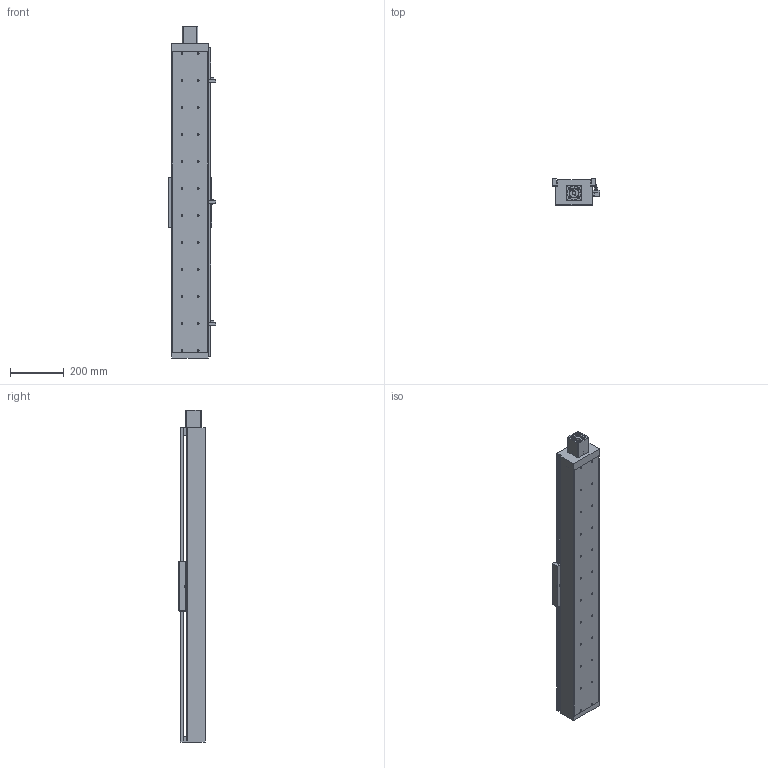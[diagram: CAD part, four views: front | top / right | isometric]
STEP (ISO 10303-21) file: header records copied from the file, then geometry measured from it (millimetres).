
FILE_DESCRIPTION((''),'2;1');
FILE_NAME('E:\libraries\UIA actuator library 2009\standard actuator\UIA136 ball screw 20\UIA136R15NDC stp file 27Apr16\UIA136R15NDC-900-R20_ _-M60-P13-C10-S.stp','2016-04-27T14:03:25',('h029'),(''),'Autodesk Inventor 11','Autodesk Inventor 11','');
FILE_SCHEMA(('AUTOMOTIVE_DESIGN { 1 0 10303 214 1 1 1 1 }'));
Length unit declared in the file: millimetre
Products named in the file (10): UIA136R15NDC-900; UIA136R15NDC-body; motor mount F60; SOH-32C; SOH-32C-3; SOH-32C-1; SOH-32C-2; Carriage; Sensor Switch; sensor rail
Assembly tree (9 placements, depth 3):
  UIA136R15NDC-900
    UIA136R15NDC-body
    motor mount F60
    SOH-32C
      SOH-32C-3
      SOH-32C-1
      SOH-32C-2
    Carriage
    Sensor Switch
    sensor rail
Bounding box: 174.5 x 98 x 1230 mm (x, y, z)
Volume: 4610285.5 mm3; surface area: 1279294.7 mm2
Topology: 8 solids, 8 shells, 517 faces, 1347 edges, 885 vertices
Faces by surface type: plane 311, bspline 162, cylinder 40, cone 4
Full cylindrical faces by diameter (mm): 2.459 x2, 3.242 x2, 4.5 x2, 5.5 x3, 7.5 x2, 10 x2, 12 x1, 14 x1, 32 x3, 37 x1, 41.9 x1, 42.1 x1, 43.5 x1
Entity records: 16985 total; most frequent: CARTESIAN_POINT 5150, ORIENTED_EDGE 2270, DIRECTION 2208, EDGE_CURVE 1135, VERTEX_POINT 820, EDGE_LOOP 803, VECTOR 792, LINE 792
